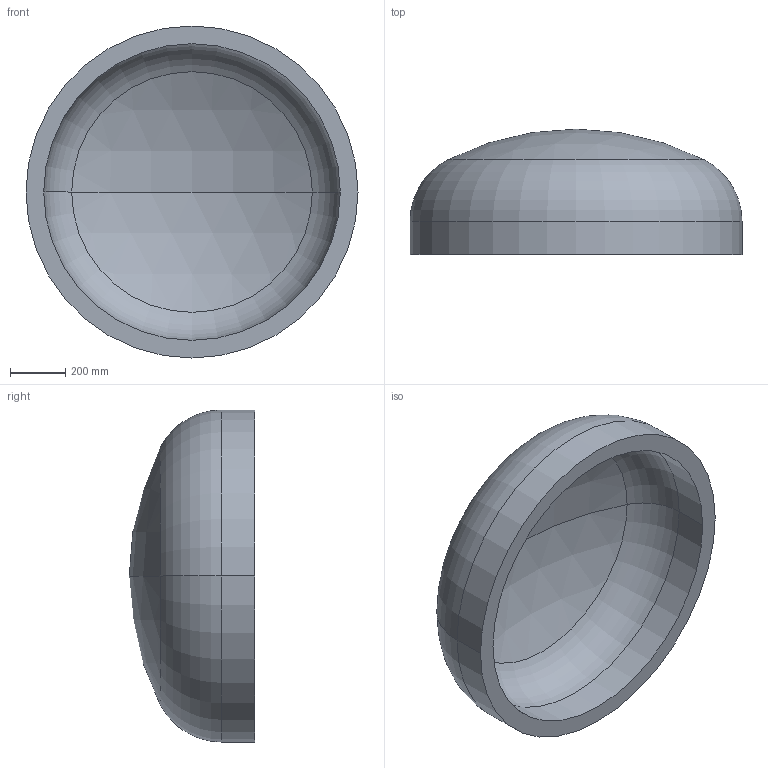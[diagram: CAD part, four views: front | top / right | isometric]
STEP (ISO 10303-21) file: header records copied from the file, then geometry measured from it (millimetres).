
FILE_DESCRIPTION (( 'STEP AP203' ), '1' );
FILE_NAME ('DIN 28013 Korbbogenform_-_Boden DIN 28013 - 1200 x 120 - I - s=64.step', '2016-07-01T09:32:52', ( '' ), ( '' ), 'SwSTEP 2.0', 'SolidWorks 2013', '' );
FILE_SCHEMA (( 'CONFIG_CONTROL_DESIGN' ));
Length unit declared in the file: millimetre
Products named in the file (1): DIN 28013 Korbbogenform_-_Boden DIN 28013 - 1200 x 120 - I - s=64
Bounding box: 1200 x 453.04 x 1200 mm (x, y, z)
Volume: 121054973.8 mm3; surface area: 4019952.1 mm2
Topology: 1 solids, 1 shells, 13 faces, 24 edges, 14 vertices
Faces by surface type: torus 4, cylinder 4, sphere 4, plane 1
Entity records: 407 total; most frequent: DIRECTION 72, CARTESIAN_POINT 52, ORIENTED_EDGE 48, AXIS2_PLACEMENT_3D 34, EDGE_CURVE 24, CIRCLE 20, EDGE_LOOP 14, VERTEX_POINT 14
